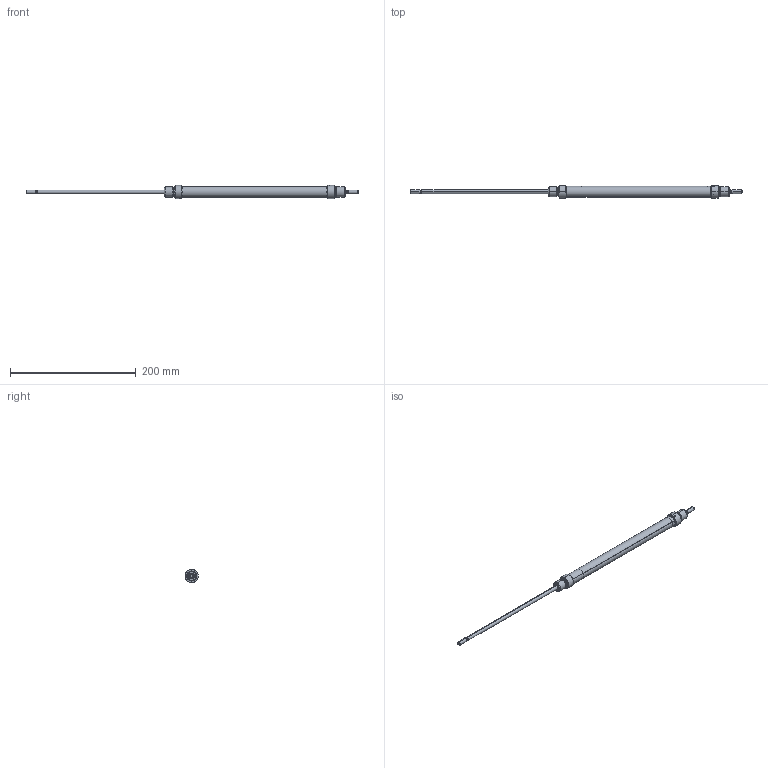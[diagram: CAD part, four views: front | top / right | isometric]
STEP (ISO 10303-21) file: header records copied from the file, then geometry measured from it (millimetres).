
FILE_DESCRIPTION (( 'STEP AP203' ), '1' );
FILE_NAME ('ML0160200A.step', '2012-10-17T16:35:21', ( '' ), ( '' ), 'SwSTEP 2.0', 'SolidWorks 2012', '' );
FILE_SCHEMA (( 'CONFIG_CONTROL_DESIGN' ));
Length unit declared in the file: millimetre
Products named in the file (1): ML0160200A
Bounding box: 529 x 20 x 21 mm (x, y, z)
Volume: 40716 mm3; surface area: 36071.9 mm2
Topology: 1 solids, 12 shells, 304 faces, 721 edges, 454 vertices
Faces by surface type: cylinder 129, plane 69, cone 57, torus 37, sphere 12
Entity records: 9343 total; most frequent: CARTESIAN_POINT 2198, DIRECTION 1580, ORIENTED_EDGE 1418, EDGE_CURVE 709, AXIS2_PLACEMENT_3D 682, VERTEX_POINT 450, CIRCLE 377, EDGE_LOOP 339
